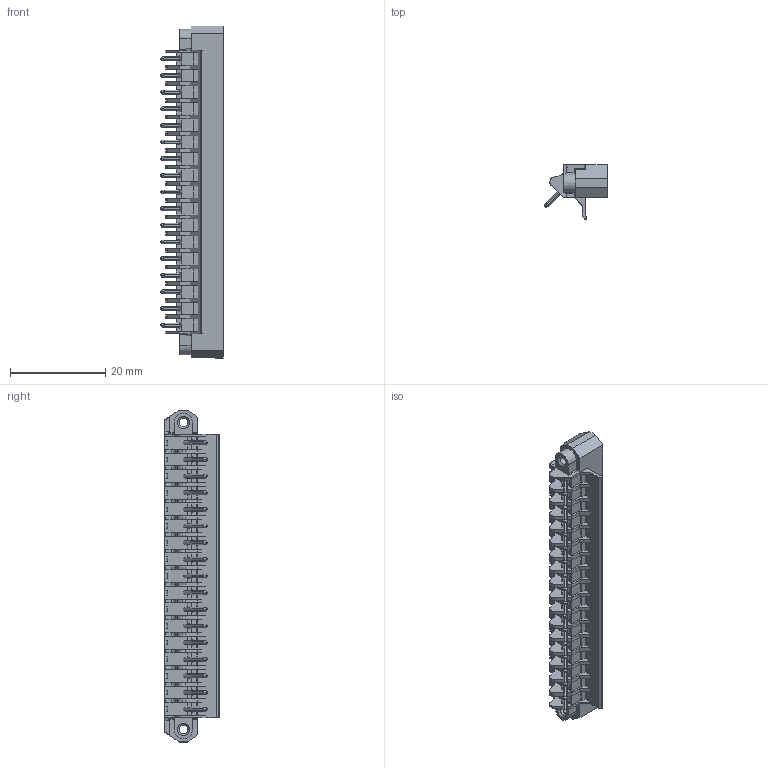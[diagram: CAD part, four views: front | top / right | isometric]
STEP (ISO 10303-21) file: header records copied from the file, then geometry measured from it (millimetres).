
FILE_DESCRIPTION (( 'STEP AP214' ), '1' );
FILE_NAME ('110-V-215-17.STEP', '2008-08-24T03:37:14', ( ' ' ), ( '' ), 'SwSTEP 2.0', 'SolidWorks 2007', '' );
FILE_SCHEMA (( 'AUTOMOTIVE_DESIGN' ));
Length unit declared in the file: millimetre
Products named in the file (1): 110-V-215-17
Bounding box: 13.23 x 11.4 x 69.8 mm (x, y, z)
Volume: 2401.9 mm3; surface area: 6886.5 mm2
Topology: 1 solids, 1 shells, 1897 faces, 5166 edges, 3283 vertices
Faces by surface type: plane 1362, cylinder 322, cone 194, bspline 19
Entity records: 61330 total; most frequent: CARTESIAN_POINT 14057, ORIENTED_EDGE 10332, DIRECTION 9155, EDGE_CURVE 5166, VECTOR 3995, LINE 3995, VERTEX_POINT 3283, AXIS2_PLACEMENT_3D 2580
